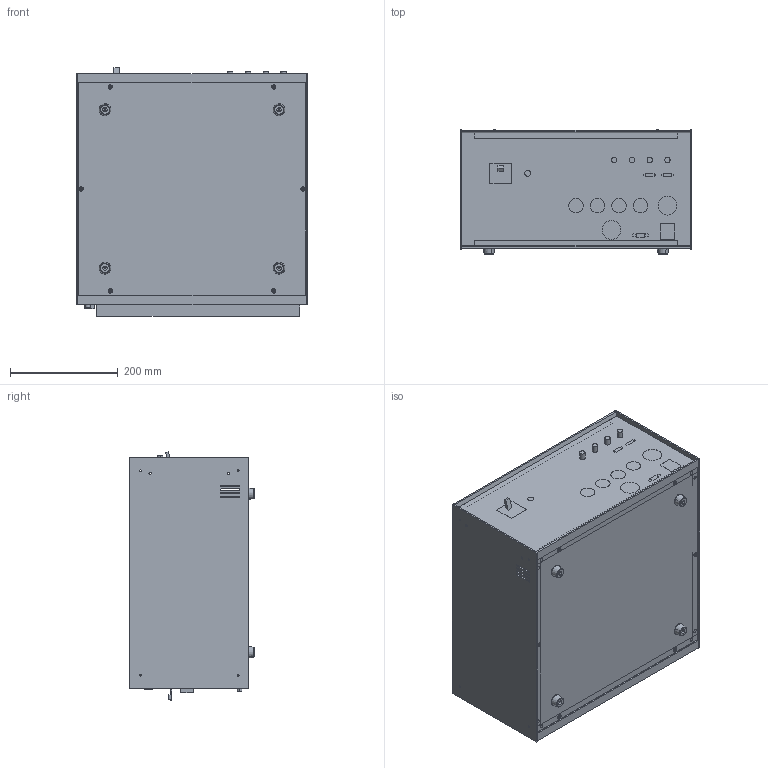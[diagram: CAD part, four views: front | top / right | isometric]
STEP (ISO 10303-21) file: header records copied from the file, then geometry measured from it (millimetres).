
FILE_DESCRIPTION (( 'STEP AP203' ), '1' );
FILE_NAME ('DA1100.STEP', '2024-08-28T05:41:24', ( '' ), ( '' ), 'SwSTEP 2.0', 'SolidWorks 2017', '' );
FILE_SCHEMA (( 'CONFIG_CONTROL_DESIGN' ));
Length unit declared in the file: millimetre
Products named in the file (5): DA1100; Part2^DA1100; Part1266^DA1100; Part1267^DA1100; Copy of _X2_52365FA1_X0_BOX__X2_521D5F6272B6_X0_-prt0^DA1100
Assembly tree (7 placements, depth 2):
  DA1100
    Copy of _X2_52365FA1_X0_BOX__X2_521D5F6272B6_X0_-prt0^DA1100
    Part1266^DA1100
    Part1267^DA1100
    Part2^DA1100  x4
Bounding box: 430 x 231.5 x 461.87 mm (x, y, z)
Volume: 1472610.8 mm3; surface area: 1561998.5 mm2
Topology: 7 solids, 7 shells, 1335 faces, 3583 edges, 2356 vertices
Faces by surface type: plane 732, cylinder 474, bspline 39, cone 36, torus 30, sphere 24
Entity records: 43345 total; most frequent: CARTESIAN_POINT 8004, DIRECTION 7378, ORIENTED_EDGE 7130, EDGE_CURVE 3565, AXIS2_PLACEMENT_3D 2567, VERTEX_POINT 2344, VECTOR 2244, LINE 2244
